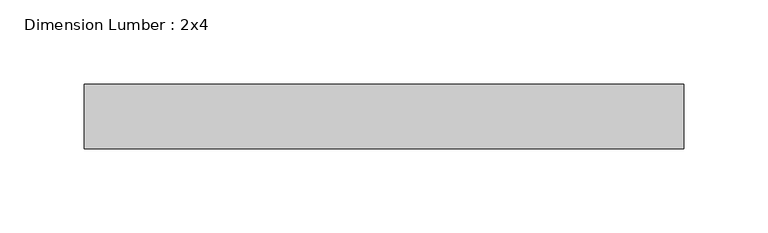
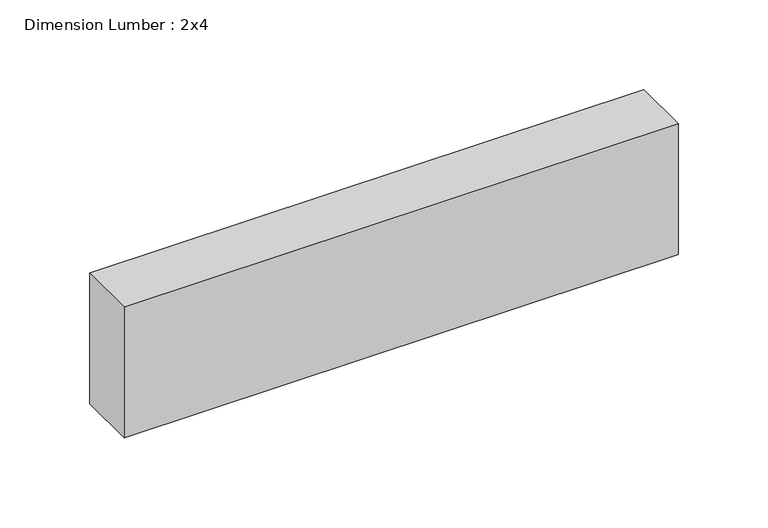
"""IFC4 building model written with IfcOpenShell, lengths in millimetres: beam geometry, Dimension Lumber : 2x4."""

from ifc_helpers import new_model, si_unit, frame, origin, place, context, project, spatial, polyline, outline, extrude, source, transform, mapped, element, save


def dimension_lumber_2x4_d2ad68aa(model_context):
    return source(origin(), model_context, "Body", "SweptSolid", [
        extrude(outline(polyline([(177.8, 19.05), (177.8, -19.05), (-177.8, -19.05), (-177.8, 19.05), (177.8, 19.05)])), frame((0.0, 0.0, -44.45), z_axis=(0.0, 0.0, 1.0), x_axis=(1.0, 0.0, 0.0)), (0.0, 0.0, 1.0), 88.9),
    ])


if __name__ == "__main__":
    model = new_model("IFC4")
    model_context = context("Model", 3, world=origin())
    ifc_project = project(units=[si_unit("LENGTHUNIT", "METRE", prefix="MILLI")], contexts=[model_context])
    site = spatial("IfcSite", under=ifc_project)
    building = spatial("IfcBuilding", under=site)
    placement = place(None, origin())
    dimension_lumber_2x4_shape = dimension_lumber_2x4_d2ad68aa(model_context)
    element("IfcBeam", 1, ObjectType="Dimension Lumber : 2x4", at=placement, inside=building, context=model_context, shape_type="MappedRepresentation", body=[
        mapped(dimension_lumber_2x4_shape, transform((0.0, 0.0, 0.0), x_axis=(1.0, 0.0, 0.0), y_axis=(0.0, 1.0, 0.0), z_axis=(0.0, 0.0, 1.0))),
    ])
    save(model, "model.ifc")
